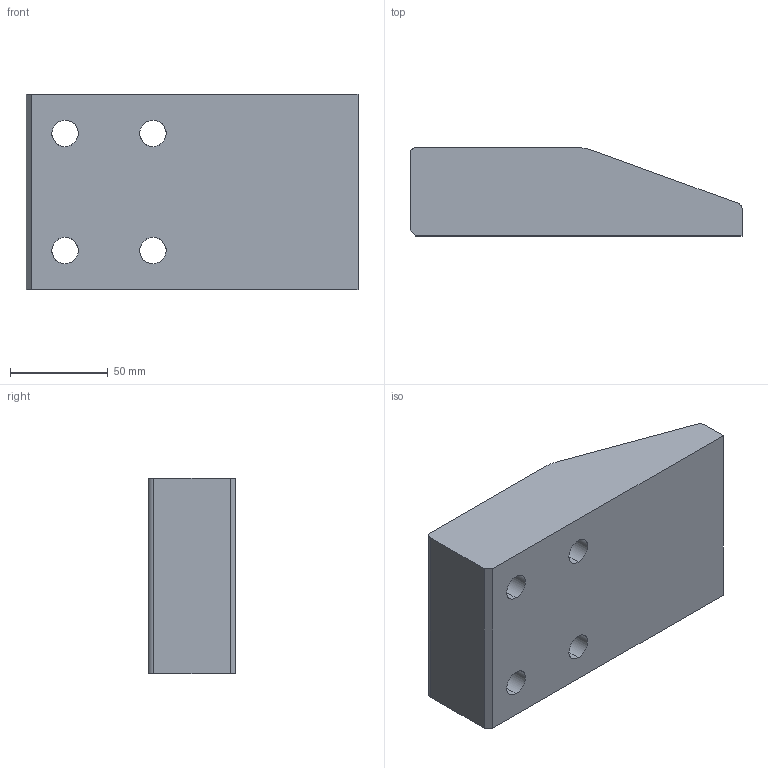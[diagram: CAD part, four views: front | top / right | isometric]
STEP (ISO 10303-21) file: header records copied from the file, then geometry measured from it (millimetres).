
FILE_DESCRIPTION(('CATIA V5 STEP Exchange'),'2;1');
FILE_NAME('C:\Users\Raffaele\Desktop\3D X SITO CF\A935\GSB_OILLESS_G2290110017045\STEP-2.03\A935-10017045.stp','2019-07-12T07:10:55+00:00',('none'),('none'),'CATIA Version 5 Release 20 GA (IN-10)','CATIA V5 STEP AP203','none');
FILE_SCHEMA(('CONFIG_CONTROL_DESIGN'));
Length unit declared in the file: millimetre
Products named in the file (1): A935-10017045
Bounding box: 170 x 45 x 100 mm (x, y, z)
Volume: 600960.2 mm3; surface area: 61825.3 mm2
Topology: 1 solids, 1 shells, 39 faces, 131 edges, 98 vertices
Faces by surface type: cylinder 19, plane 12, torus 8
Entity records: 1691 total; most frequent: CARTESIAN_POINT 493, ORIENTED_EDGE 262, DIRECTION 193, EDGE_CURVE 131, AXIS2_PLACEMENT_3D 118, VERTEX_POINT 98, CIRCLE 78, EDGE_LOOP 51
